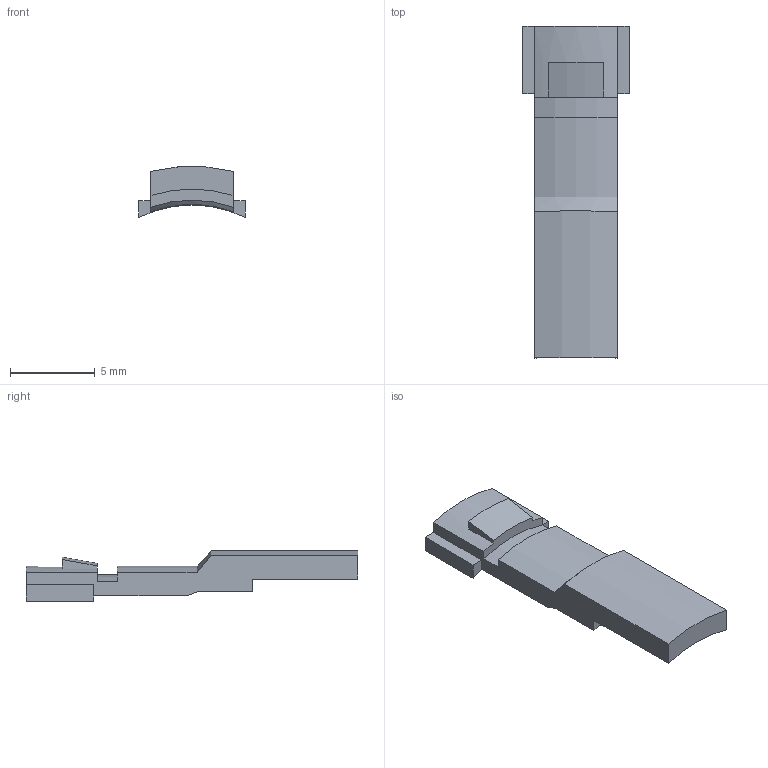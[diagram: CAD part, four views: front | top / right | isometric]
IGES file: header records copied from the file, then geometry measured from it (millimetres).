
Start section: Data from XPlus IGES,  Spatial Corp. Copyright (c) 1999-2004
Global section: file name: 216407.igs; native system:  By Spatial Corp.; preprocessor: XPlus ACIS/IGES 3.0; author: Noname; organization: Noname; date: 20120530.175125; units: millimetre
Bounding box: 6.3 x 19.6 x 2.97 mm (x, y, z)
Surface area: 296.8 mm2 (no closed solid volume)
Topology: 0 solids, 0 shells, 30 faces, 168 edges, 168 vertices
Faces by surface type: extrusion 19, revolution 11
